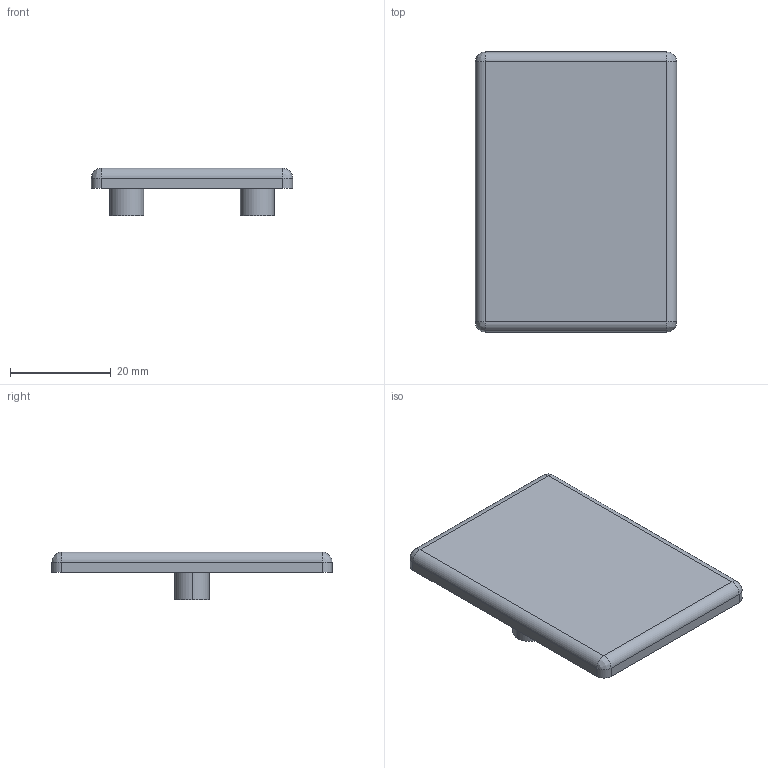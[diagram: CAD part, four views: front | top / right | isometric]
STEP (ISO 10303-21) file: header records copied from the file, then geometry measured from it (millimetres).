
FILE_DESCRIPTION (( 'STEP AP203' ), '1' );
FILE_NAME ('0108AKW4040.STEP', '2024-03-12T09:34:43', ( 'Windows-Benutzer' ), ( '' ), 'SwSTEP 2.0', 'SolidWorks 2023', '' );
FILE_SCHEMA (( 'CONFIG_CONTROL_DESIGN' ));
Length unit declared in the file: millimetre
Products named in the file (1): 0108AKW4040
Bounding box: 40 x 55.68 x 9.5 mm (x, y, z)
Volume: 9135.6 mm3; surface area: 5271.1 mm2
Topology: 1 solids, 1 shells, 24 faces, 52 edges, 28 vertices
Faces by surface type: cylinder 12, plane 8, bspline 4
Entity records: 741 total; most frequent: CARTESIAN_POINT 161, DIRECTION 114, ORIENTED_EDGE 96, EDGE_CURVE 48, AXIS2_PLACEMENT_3D 45, VERTEX_POINT 28, EDGE_LOOP 26, CIRCLE 24
